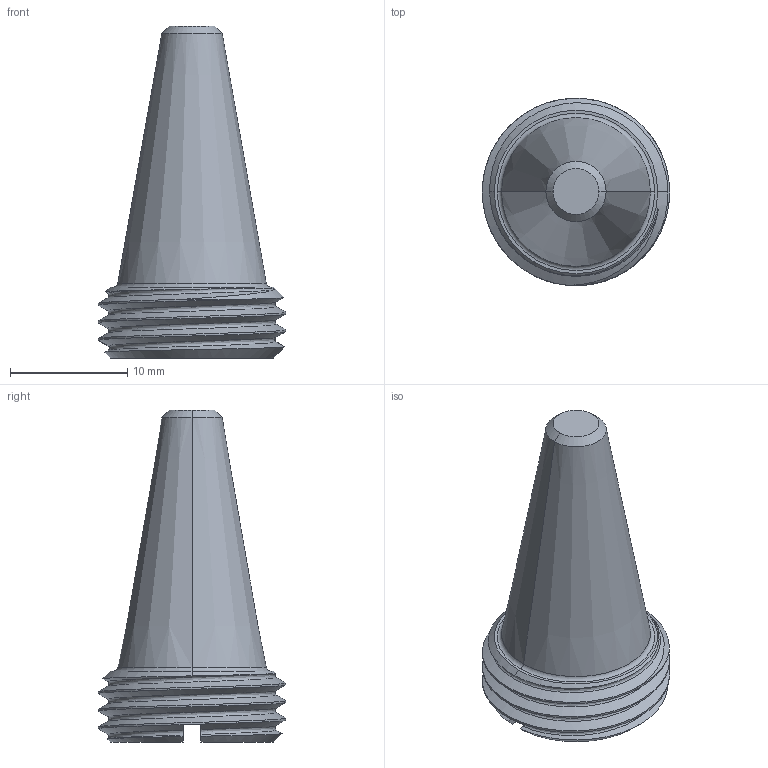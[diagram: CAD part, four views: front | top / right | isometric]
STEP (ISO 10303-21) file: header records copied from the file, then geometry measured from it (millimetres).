
FILE_DESCRIPTION (( 'STEP AP214' ), '1' );
FILE_NAME ('3DFSHB1603000M.STEP', '2021-03-31T18:18:16', ( '' ), ( '' ), 'SwSTEP 2.0', 'SolidWorks 2019', '' );
FILE_SCHEMA (( 'AUTOMOTIVE_DESIGN' ));
Length unit declared in the file: inch
Products named in the file (1): 3DFSHB1603000M
Bounding box: 16 x 16 x 28.35 mm (x, y, z)
Volume: 2487.3 mm3; surface area: 1315.3 mm2
Topology: 1 solids, 1 shells, 226 faces, 599 edges, 398 vertices
Faces by surface type: plane 117, bspline 92, cone 9, cylinder 6, torus 2
Entity records: 19190 total; most frequent: CARTESIAN_POINT 11800, ORIENTED_EDGE 1198, DIRECTION 669, EDGE_CURVE 599, VERTEX_POINT 398, VECTOR 363, LINE 363, EDGE_LOOP 249
